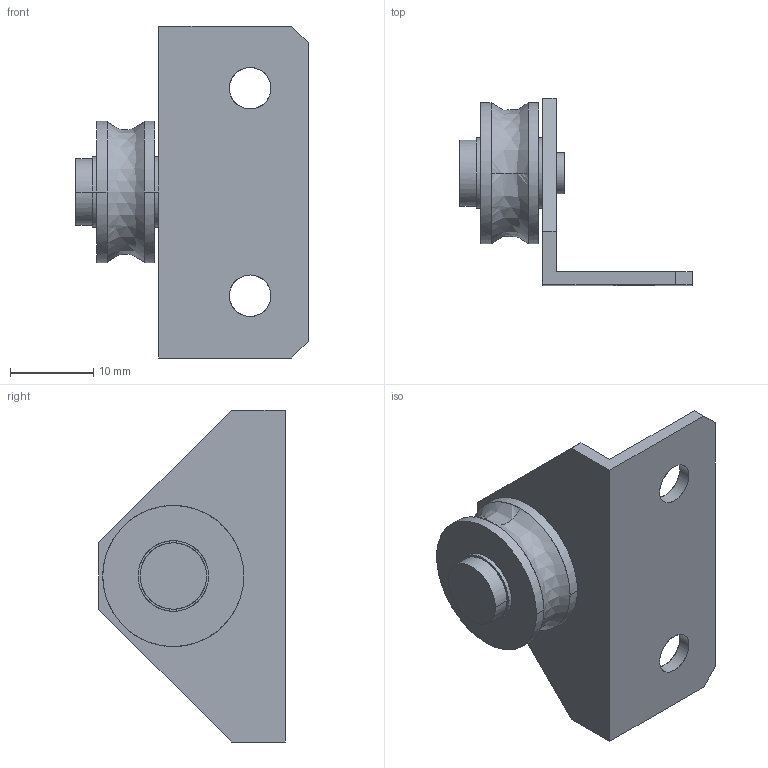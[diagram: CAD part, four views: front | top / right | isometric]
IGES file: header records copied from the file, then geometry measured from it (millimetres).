
Global section: file name: No Iges File Name specified; native system: AutoDesk Inventor R11.0; preprocessor: AutoDesk Inventor Iges Exporter R11.0; author: No Author specified; organization: No Organization specified; date: 20190511.110031; units: millimetre
Bounding box: 28 x 22.5 x 40 mm (x, y, z)
Surface area: 3723.7 mm2 (no closed solid volume)
Topology: 0 solids, 0 shells, 38 faces, 252 edges, 252 vertices
Faces by surface type: bspline 38
